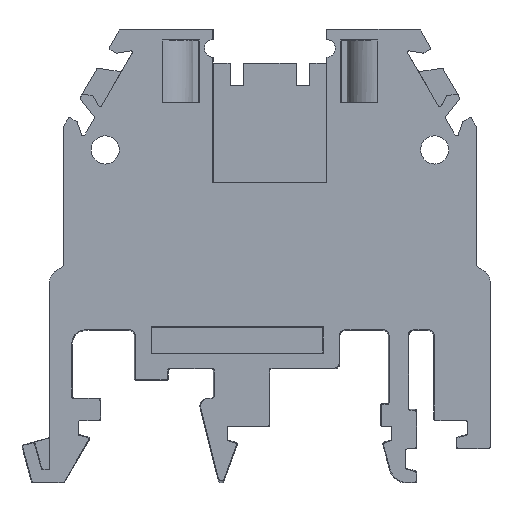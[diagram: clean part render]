
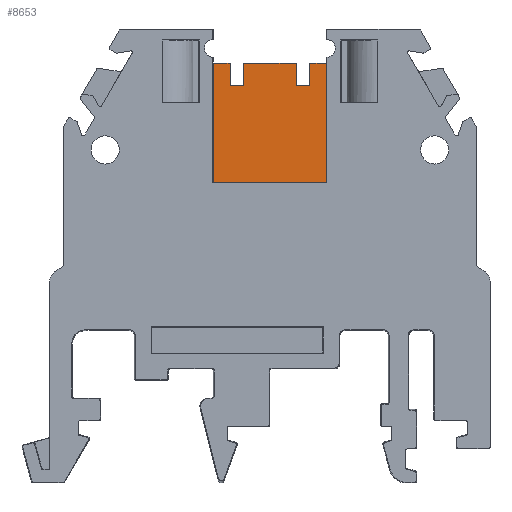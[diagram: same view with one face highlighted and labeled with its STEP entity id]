
A CAD part, front view. The second image highlights one B-rep face of the part: STEP entity #8653.
In plain terms, the highlighted planar face has unit normal (0, -1, 0).
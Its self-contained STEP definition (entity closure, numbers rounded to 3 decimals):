
#418=ORIENTED_EDGE('',*,*,#2271,.T.);
#419=ORIENTED_EDGE('',*,*,#2282,.T.);
#420=ORIENTED_EDGE('',*,*,#2280,.F.);
#421=ORIENTED_EDGE('',*,*,#2284,.T.);
#422=ORIENTED_EDGE('',*,*,#2285,.F.);
#423=ORIENTED_EDGE('',*,*,#2286,.F.);
#424=ORIENTED_EDGE('',*,*,#2287,.T.);
#425=ORIENTED_EDGE('',*,*,#2288,.T.);
#426=ORIENTED_EDGE('',*,*,#2289,.F.);
#427=ORIENTED_EDGE('',*,*,#2290,.T.);
#428=ORIENTED_EDGE('',*,*,#2291,.T.);
#429=ORIENTED_EDGE('',*,*,#2292,.T.);
#2271=EDGE_CURVE('',#3206,#3205,#3826,.F.);
#2280=EDGE_CURVE('',#3214,#3209,#3833,.T.);
#2282=EDGE_CURVE('',#3205,#3209,#3834,.T.);
#2284=EDGE_CURVE('',#3214,#3216,#3836,.T.);
#2285=EDGE_CURVE('',#3217,#3216,#3837,.T.);
#2286=EDGE_CURVE('',#3218,#3217,#3838,.T.);
#2287=EDGE_CURVE('',#3218,#3219,#3839,.T.);
#2288=EDGE_CURVE('',#3219,#3220,#3840,.T.);
#2289=EDGE_CURVE('',#3221,#3220,#3841,.T.);
#2290=EDGE_CURVE('',#3221,#3222,#3842,.T.);
#2291=EDGE_CURVE('',#3222,#3223,#3843,.T.);
#2292=EDGE_CURVE('',#3223,#3206,#3844,.T.);
#3205=VERTEX_POINT('',#11448);
#3206=VERTEX_POINT('',#11450);
#3209=VERTEX_POINT('',#11458);
#3214=VERTEX_POINT('',#11467);
#3216=VERTEX_POINT('',#11476);
#3217=VERTEX_POINT('',#11478);
#3218=VERTEX_POINT('',#11480);
#3219=VERTEX_POINT('',#11482);
#3220=VERTEX_POINT('',#11484);
#3221=VERTEX_POINT('',#11486);
#3222=VERTEX_POINT('',#11488);
#3223=VERTEX_POINT('',#11490);
#3826=LINE('',#11449,#4493);
#3833=LINE('',#11468,#4500);
#3834=LINE('',#11472,#4501);
#3836=LINE('',#11475,#4503);
#3837=LINE('',#11477,#4504);
#3838=LINE('',#11479,#4505);
#3839=LINE('',#11481,#4506);
#3840=LINE('',#11483,#4507);
#3841=LINE('',#11485,#4508);
#3842=LINE('',#11487,#4509);
#3843=LINE('',#11489,#4510);
#3844=LINE('',#11491,#4511);
#4493=VECTOR('',#9603,1000.);
#4500=VECTOR('',#9616,1000.);
#4501=VECTOR('',#9621,1000.);
#4503=VECTOR('',#9625,1000.);
#4504=VECTOR('',#9626,1000.);
#4505=VECTOR('',#9627,1000.);
#4506=VECTOR('',#9628,1000.);
#4507=VECTOR('',#9629,1000.);
#4508=VECTOR('',#9630,1000.);
#4509=VECTOR('',#9631,1000.);
#4510=VECTOR('',#9632,1000.);
#4511=VECTOR('',#9633,1000.);
#5162=EDGE_LOOP('',(#418,#419,#420,#421,#422,#423,#424,#425,#426,#427,#428,
#429));
#5555=FACE_BOUND('',#5162,.T.);
#5947=PLANE('',#9015);
#8653=ADVANCED_FACE('',(#5555),#5947,.T.);
#9015=AXIS2_PLACEMENT_3D('',#11474,#9623,#9624);
#9603=DIRECTION('',(0.,0.,1.));
#9616=DIRECTION('',(0.,0.,-1.));
#9621=DIRECTION('',(1.,0.,0.));
#9623=DIRECTION('',(0.,-1.,0.));
#9624=DIRECTION('',(0.,0.,-1.));
#9625=DIRECTION('',(-1.,0.,0.));
#9626=DIRECTION('',(0.,0.,1.));
#9627=DIRECTION('',(1.,0.,0.));
#9628=DIRECTION('',(0.,0.,1.));
#9629=DIRECTION('',(-1.,0.,0.));
#9630=DIRECTION('',(0.,0.,1.));
#9631=DIRECTION('',(-1.,0.,0.));
#9632=DIRECTION('',(0.,0.,1.));
#9633=DIRECTION('',(-1.,0.,0.));
#11448=CARTESIAN_POINT('',(-5.258,4.3,13.1));
#11449=CARTESIAN_POINT('',(-5.258,4.3,1.7));
#11450=CARTESIAN_POINT('',(-5.258,4.3,23.7));
#11458=CARTESIAN_POINT('',(4.755,4.3,13.1));
#11467=CARTESIAN_POINT('',(4.755,4.3,23.7));
#11468=CARTESIAN_POINT('',(4.755,4.3,1.7));
#11472=CARTESIAN_POINT('',(-4.932,4.3,13.1));
#11474=CARTESIAN_POINT('',(-4.932,4.3,1.7));
#11475=CARTESIAN_POINT('',(4.429,4.3,23.7));
#11476=CARTESIAN_POINT('',(3.273,4.3,23.7));
#11477=CARTESIAN_POINT('',(3.273,4.3,21.7));
#11478=CARTESIAN_POINT('',(3.273,4.3,21.7));
#11479=CARTESIAN_POINT('',(2.073,4.3,21.7));
#11480=CARTESIAN_POINT('',(2.073,4.3,21.7));
#11481=CARTESIAN_POINT('',(2.073,4.3,21.7));
#11482=CARTESIAN_POINT('',(2.073,4.3,23.7));
#11483=CARTESIAN_POINT('',(4.429,4.3,23.7));
#11484=CARTESIAN_POINT('',(-2.577,4.3,23.7));
#11485=CARTESIAN_POINT('',(-2.577,4.3,21.7));
#11486=CARTESIAN_POINT('',(-2.577,4.3,21.7));
#11487=CARTESIAN_POINT('',(-2.577,4.3,21.7));
#11488=CARTESIAN_POINT('',(-3.777,4.3,21.7));
#11489=CARTESIAN_POINT('',(-3.777,4.3,21.7));
#11490=CARTESIAN_POINT('',(-3.777,4.3,23.7));
#11491=CARTESIAN_POINT('',(4.429,4.3,23.7));
